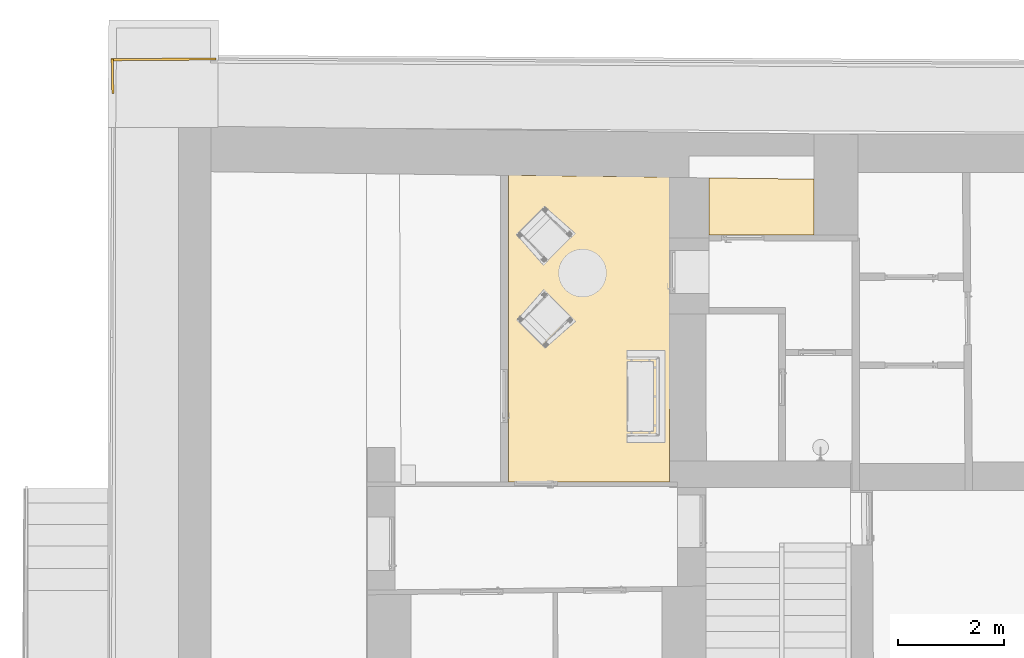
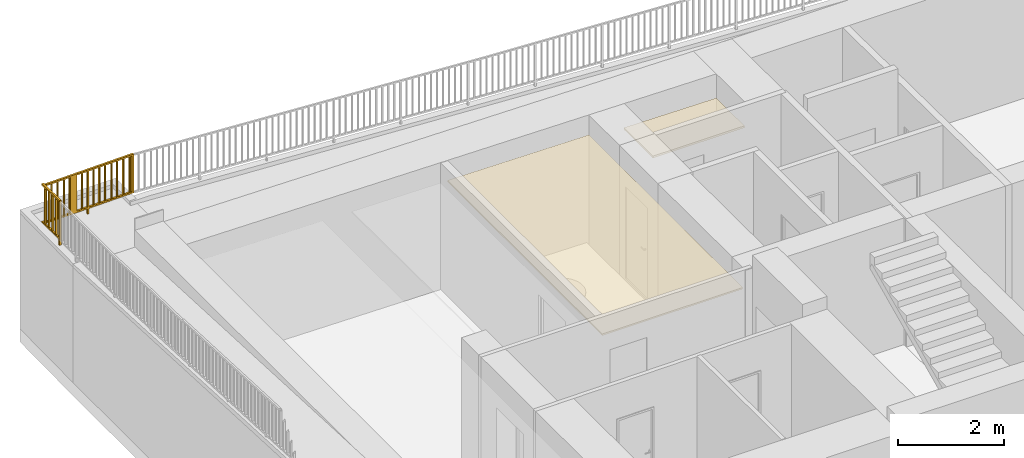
# One storey, part 14 of 17: 2 coverings, 2 railings.
"""IFC2X3 building model written with IfcOpenShell, lengths in millimetres."""

from ifc_helpers import new_model, entity, si_unit, converted_unit, derived_unit, direction, frame, origin, place, context, subcontext, project, spatial, polyline, outline, extrude, source, transform, mapped, material, layer, layer_set, layer_usage, type_object, type_shapes, element, save


model = new_model("IFC2X3")

# Units and contexts
model_context = context("Model", 3, precision=0.01, world=origin(), true_north=direction((6.12303176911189e-17, 1.0)))
context_of_model = context(None, 3, precision=0.01, world=origin(), true_north=direction((6.12303176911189e-17, 1.0)))
body_context = subcontext(model_context, "Body", "Model", "MODEL_VIEW")
ifc_project = project(units=[si_unit("LENGTHUNIT", "METRE", prefix="MILLI"), si_unit("AREAUNIT", "SQUARE_METRE"), si_unit("VOLUMEUNIT", "CUBIC_METRE"), converted_unit("PLANEANGLEUNIT", "DEGREE", entity("IfcRatioMeasure", 0.0174532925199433), si_unit("PLANEANGLEUNIT", "RADIAN"), dimensions=[0, 0, 0, 0, 0, 0, 0]), si_unit("MASSUNIT", "GRAM", prefix="KILO"), derived_unit("MASSDENSITYUNIT", [(si_unit("MASSUNIT", "GRAM", prefix="KILO"), 1), (si_unit("LENGTHUNIT", "METRE"), -3)]), si_unit("TIMEUNIT", "SECOND"), si_unit("FREQUENCYUNIT", "HERTZ"), si_unit("THERMODYNAMICTEMPERATUREUNIT", "DEGREE_CELSIUS"), derived_unit("THERMALTRANSMITTANCEUNIT", [(si_unit("MASSUNIT", "GRAM", prefix="KILO"), 1), (si_unit("THERMODYNAMICTEMPERATUREUNIT", "KELVIN"), -1), (si_unit("TIMEUNIT", "SECOND"), -3)]), derived_unit("VOLUMETRICFLOWRATEUNIT", [(si_unit("LENGTHUNIT", "METRE"), 3), (si_unit("TIMEUNIT", "SECOND"), -1)]), si_unit("ELECTRICCURRENTUNIT", "AMPERE"), si_unit("ELECTRICVOLTAGEUNIT", "VOLT"), si_unit("POWERUNIT", "WATT"), si_unit("FORCEUNIT", "NEWTON", prefix="KILO"), si_unit("ILLUMINANCEUNIT", "LUX"), si_unit("LUMINOUSFLUXUNIT", "LUMEN"), si_unit("LUMINOUSINTENSITYUNIT", "CANDELA"), derived_unit("USERDEFINED", [(si_unit("MASSUNIT", "GRAM", prefix="KILO"), -1), (si_unit("LENGTHUNIT", "METRE"), -2), (si_unit("TIMEUNIT", "SECOND"), 3), (si_unit("LUMINOUSFLUXUNIT", "LUMEN"), 1)]), derived_unit("LINEARVELOCITYUNIT", [(si_unit("LENGTHUNIT", "METRE"), 1), (si_unit("TIMEUNIT", "SECOND"), -1)]), si_unit("PRESSUREUNIT", "PASCAL"), derived_unit("USERDEFINED", [(si_unit("LENGTHUNIT", "METRE"), -2), (si_unit("MASSUNIT", "GRAM", prefix="KILO"), 1), (si_unit("TIMEUNIT", "SECOND"), -2)])], contexts=[model_context, context_of_model])

# Site, building, storey
site_placement = place(None, frame((121442.264707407, 135347.995453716, -1800.0)))
site = spatial("IfcSite", under=ifc_project, at=site_placement, Name="Surface", CompositionType="ELEMENT")
building_placement = place(site_placement, origin())
building = spatial("IfcBuilding", under=site, at=building_placement, CompositionType="ELEMENT")
storey_placement = place(building_placement, frame((0.0, 0.0, -1490.0)))
storey = spatial("IfcBuildingStorey", under=building, at=storey_placement, Name="Kelder", CompositionType="ELEMENT", Elevation=-1489.99999999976)

# Railings
railing_type_1 = type_object("IfcRailingType", Name="Railings 5", PredefinedType="NOTDEFINED")
shared_shape_1 = source(origin(), body_context, "Body", "SweptSolid", [
    extrude(outline(polyline([(-634.151783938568, -1297.66103634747), (259.168515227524, -1297.66103634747), (272.837875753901, -326.473552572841), (395.154428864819, -326.473552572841), (395.154428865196, -287.582679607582), (273.385260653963, -287.582679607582), (286.546903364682, 647.532217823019), (251.546903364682, 647.532217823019), (251.110374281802, 616.517483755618), (-572.20992488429, 616.517483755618), (-571.771490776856, 647.667566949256), (-606.771490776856, 647.667566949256), (-634.151783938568, -1297.66103634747)]), holes=[polyline([(250.815559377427, 595.571328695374), (249.31582534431, 489.017483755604), (-574.004473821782, 489.017483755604), (-572.504739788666, 595.571328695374), (250.815559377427, 595.571328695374)]), polyline([(249.021010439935, 468.07132869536), (247.503682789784, 360.267483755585), (-575.816616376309, 360.267483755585), (-574.299288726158, 468.07132869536), (249.021010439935, 468.07132869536)]), polyline([(247.208867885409, 339.321328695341), (245.603572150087, 225.267483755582), (-577.716727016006, 225.267483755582), (-576.111431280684, 339.321328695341), (247.208867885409, 339.321328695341)]), polyline([(245.308757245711, 204.321328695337), (243.826616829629, 99.0174837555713), (-579.493682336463, 99.0174837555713), (-578.011541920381, 204.321328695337), (245.308757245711, 204.321328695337)]), polyline([(243.531801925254, 78.0713286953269), (-579.788497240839, 78.0713286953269), (-579.524278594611, 96.8436656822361), (243.796020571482, 96.8436656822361), (243.531801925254, 78.0713286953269)]), polyline([(241.649284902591, -55.678671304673), (240.079176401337, -167.232516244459), (-583.241122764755, -167.232516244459), (-581.671014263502, -55.678671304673), (241.649284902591, -55.678671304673)]), polyline([(239.784361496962, -188.178671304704), (238.385260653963, -287.582679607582), (-584.93503851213, -287.582679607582), (-583.535937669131, -188.178671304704), (239.784361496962, -188.178671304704)]), polyline([(239.905390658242, -326.473552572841), (238.610374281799, -418.482516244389), (-584.709924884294, -418.482516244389), (-583.41490850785, -326.473552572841), (239.905390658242, -326.473552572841)]), polyline([(238.315559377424, -439.428671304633), (236.815825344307, -545.982516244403), (-586.504473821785, -545.982516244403), (-585.004739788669, -439.428671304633), (238.315559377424, -439.428671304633)]), polyline([(236.521010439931, -566.928671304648), (235.003682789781, -674.732516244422), (-588.316616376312, -674.732516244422), (-586.799288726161, -566.928671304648), (236.521010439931, -566.928671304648)]), polyline([(234.708867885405, -695.678671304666), (233.103572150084, -809.732516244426), (-590.216727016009, -809.732516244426), (-588.611431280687, -695.678671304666), (234.708867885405, -695.678671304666)]), polyline([(232.808757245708, -830.67867130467), (231.326616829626, -935.982516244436), (-591.993682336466, -935.982516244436), (-590.511541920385, -830.67867130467), (232.808757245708, -830.67867130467)]), polyline([(231.03180192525, -956.92867130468), (229.444099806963, -1069.73251624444), (-593.876199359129, -1069.73251624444), (-592.288497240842, -956.92867130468), (231.03180192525, -956.92867130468)]), polyline([(229.149284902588, -1090.67867130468), (227.579176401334, -1202.23251624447), (-595.741122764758, -1202.23251624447), (-594.171014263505, -1090.67867130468), (229.149284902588, -1090.67867130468)]), polyline([(227.284361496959, -1223.17867130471), (226.862114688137, -1253.1786713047), (-596.458184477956, -1253.1786713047), (-596.035937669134, -1223.17867130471), (227.284361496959, -1223.17867130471)])]), frame((-119873.289110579, -111895.821429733, 1636.54272596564), z_axis=(0.0, 1.0, 0.0), x_axis=(0.0, 0.0, -1.0)), (0.0, 0.0, 1.0), 41.6927435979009),
])
type_shapes(railing_type_1, [shared_shape_1])
railing_1_placement = place(storey_placement, frame((-841.920608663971, -661.831315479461, 1490.0), z_axis=(0.0, 0.0, 1.0), x_axis=(0.999972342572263, 0.00743734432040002, 0.0)))
element("IfcRailing", 1, at=railing_1_placement, inside=storey, type_object=railing_type_1, Name="Railings 5:Railings 5", ObjectType="Railings 5", PredefinedType="NOTDEFINED", context=body_context, shape_type="MappedRepresentation", body=[
    mapped(shared_shape_1, transform((0.0, 0.0, 0.0), scale=1.0)),
])
railing_type_2 = type_object("IfcRailingType", Name="Railings 6", PredefinedType="NOTDEFINED")
shared_shape_2 = source(origin(), body_context, "Body", "SweptSolid", [
    extrude(outline(polyline([(-565.676099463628, -381.994509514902), (463.630113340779, -381.994509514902), (463.630113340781, -343.826214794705), (327.644199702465, -343.826214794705), (327.644199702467, 275.505490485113), (299.802301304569, 275.505490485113), (299.802301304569, 178.005490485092), (-525.400514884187, 178.005490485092), (-525.400514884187, 272.309743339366), (-565.676099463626, 272.309743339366), (-565.676099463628, -381.994509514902)]), holes=[polyline([(299.802301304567, -343.826214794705), (-525.400514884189, -343.826214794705), (-525.400514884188, -236.994509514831), (299.802301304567, -236.994509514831), (299.802301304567, -343.826214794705)]), polyline([(299.802301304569, 155.505490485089), (299.802301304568, 48.0054904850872), (-525.400514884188, 48.0054904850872), (-525.400514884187, 155.505490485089), (299.802301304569, 155.505490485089)]), polyline([(299.802301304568, 25.5054904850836), (299.802301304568, -81.9945095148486), (-525.400514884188, -81.9945095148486), (-525.400514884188, 25.5054904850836), (299.802301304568, 25.5054904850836)]), polyline([(299.802301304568, -104.494509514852), (299.802301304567, -214.494509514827), (-525.400514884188, -214.494509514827), (-525.400514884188, -104.494509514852), (299.802301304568, -104.494509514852)])]), frame((-120676.889439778, -113056.332019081, 1705.01841044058), z_axis=(1.0, 0.0, 0.0), x_axis=(0.0, 0.0, -1.0)), (0.0, 0.0, 1.0), 39.8505833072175),
])
type_shapes(railing_type_2, [shared_shape_2])
railing_2_placement = place(storey_placement, frame((-1992.95249950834, 1579.19602056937, 1490.0), z_axis=(0.0, 0.0, 1.0), x_axis=(0.999829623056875, 0.018458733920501, 0.0)))
element("IfcRailing", 2, at=railing_2_placement, inside=storey, type_object=railing_type_2, Name="Railings 6:Railings 6", ObjectType="Railings 6", PredefinedType="NOTDEFINED", context=body_context, shape_type="MappedRepresentation", body=[
    mapped(shared_shape_2, transform((0.0, 0.0, 0.0), scale=1.0)),
])

# Covering
ifc_material_1 = material(Name="EST. Ripplagi. Moodullagi. 600 x 600 mm")
ifc_layer_1 = layer(ifc_material_1, 35.0)
ifc_layer_set_1 = layer_set([ifc_layer_1], Name="Compound Ceiling:600x600 Focus")
ifc_layer_usage_1 = layer_usage(ifc_layer_set_1, "AXIS3", "POSITIVE", 0.0)
covering_1_placement = place(storey_placement, origin())
element("IfcCovering", 3, at=covering_1_placement, inside=storey, material=ifc_layer_usage_1, Name="Compound Ceiling:600x600 Focus", ObjectType="Compound Ceiling:600x600 Focus", PredefinedType="CEILING", context=body_context, shape_type="SweptSolid", body=[
    extrude(outline(polyline([(-1523.75052587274, -2897.44011304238), (1523.75052587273, -2897.44011304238), (1523.75052587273, 2878.84049406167), (-1523.75052587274, 2916.03973202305), (-1523.75052587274, -2897.44011304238)])), frame((-111512.607967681, -118532.482959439, 2500.0)), (0.0, 0.0, 1.0), 35.0),
])

# Space
space_placement = place(storey_placement, origin())
space = spatial("IfcSpace", under=storey, at=space_placement, Name="012", CompositionType="ELEMENT", InteriorOrExteriorSpace="INTERNAL")

# Covering
ifc_material_2 = material(Name="Default")
ifc_layer_2 = layer(ifc_material_2, 36.0)
ifc_material_3 = material(Name="Ceiling Tile 600 x 600")
ifc_layer_3 = layer(ifc_material_3, 8.0)
ifc_layer_set_2 = layer_set([ifc_layer_2, ifc_layer_3], Name="Compound Ceiling:600 x 600mm Vinyyl")
ifc_layer_usage_2 = layer_usage(ifc_layer_set_2, "AXIS3", "POSITIVE", 0.0)
covering_2_placement = place(space_placement, origin())
element("IfcCovering", 4, at=covering_2_placement, inside=space, material=ifc_layer_usage_2, Name="Compound Ceiling:600 x 600mm Vinyyl", ObjectType="Compound Ceiling:600 x 600mm Vinyyl", PredefinedType="CEILING", context=body_context, shape_type="SweptSolid", body=[
    extrude(outline(polyline([(-532.951081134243, -993.616209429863), (520.62087384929, -993.616209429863), (545.281288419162, 993.61620942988), (-532.951081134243, 993.61620942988), (-532.951081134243, -993.616209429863)])), frame((-108242.694431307, -116214.827551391, 2400.0), z_axis=(0.0, 0.0, 1.0), x_axis=(0.0, 1.0, 0.0)), (0.0, 0.0, 1.0), 44.0),
])

save(model, "model.ifc")
